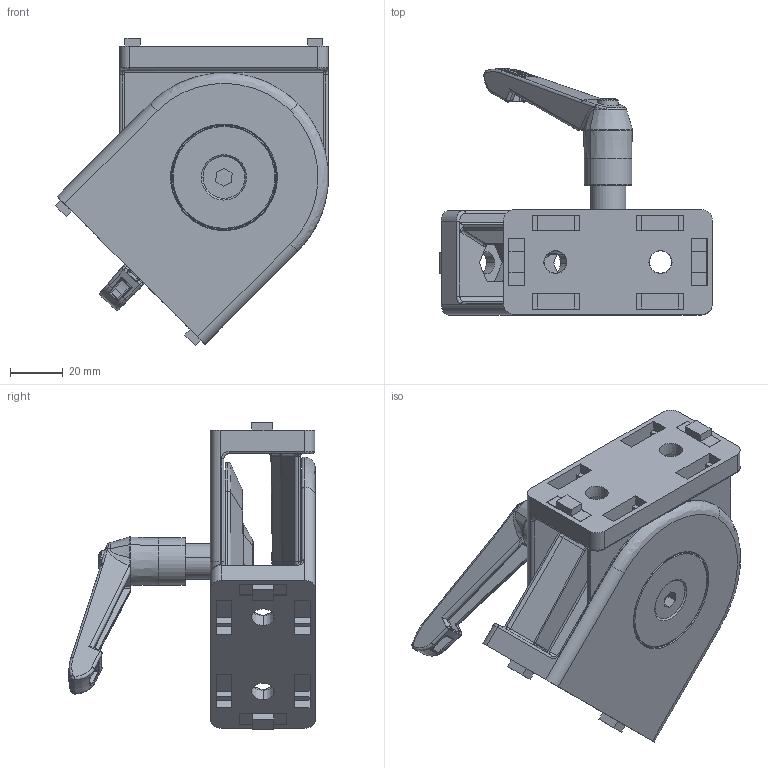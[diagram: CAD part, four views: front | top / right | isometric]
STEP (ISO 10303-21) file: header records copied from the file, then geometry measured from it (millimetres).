
FILE_DESCRIPTION (( 'STEP AP203' ), '1' );
FILE_NAME ('426040_Gelenk 8 40x80 mit Klemmhebel.step', '2022-06-27T08:22:46', ( '' ), ( '' ), 'SwSTEP 2.0', 'SolidWorks 2021', '' );
FILE_SCHEMA (( 'CONFIG_CONTROL_DESIGN' ));
Length unit declared in the file: millimetre
Products named in the file (8): 426040 Gelenk 40x80 Nut8 mit Klemmhebel_004; Nutzentrierung Nut 8-10 (groß); 426040 Gelenk 40x80 Nut8 mit Klemmhebel_003; 426040 Gelenk 40x80 Nut8 mit Klemmhebel_005; 426040 Gelenk 40x80 Nut8 mit Klemmhebel_002; 426040_Gelenk 8 40x80 mit Klemmhebel; 426040 Gelenk 40x80 Nut8 mit Klemmhebel_006; 426040 Gelenk 40x80 Nut8 mit Klemmhebel_001
Assembly tree (12 placements, depth 2):
  426040_Gelenk 8 40x80 mit Klemmhebel
    426040 Gelenk 40x80 Nut8 mit Klemmhebel_002  x2
    426040 Gelenk 40x80 Nut8 mit Klemmhebel_003
    426040 Gelenk 40x80 Nut8 mit Klemmhebel_001  x2
    426040 Gelenk 40x80 Nut8 mit Klemmhebel_004
    426040 Gelenk 40x80 Nut8 mit Klemmhebel_005
    426040 Gelenk 40x80 Nut8 mit Klemmhebel_006
    Nutzentrierung Nut 8-10 (groß)  x4
Bounding box: 103.93 x 93.89 x 117.13 mm (x, y, z)
Volume: 183067.2 mm3; surface area: 92146.5 mm2
Topology: 12 solids, 13 shells, 993 faces, 2452 edges, 1517 vertices
Faces by surface type: plane 399, bspline 265, cylinder 232, cone 95, torus 2
Entity records: 32291 total; most frequent: CARTESIAN_POINT 16956, ORIENTED_EDGE 3264, DIRECTION 2598, EDGE_CURVE 1632, VERTEX_POINT 1013, AXIS2_PLACEMENT_3D 976, EDGE_LOOP 713, ADVANCED_FACE 667
